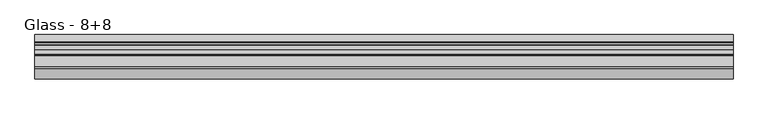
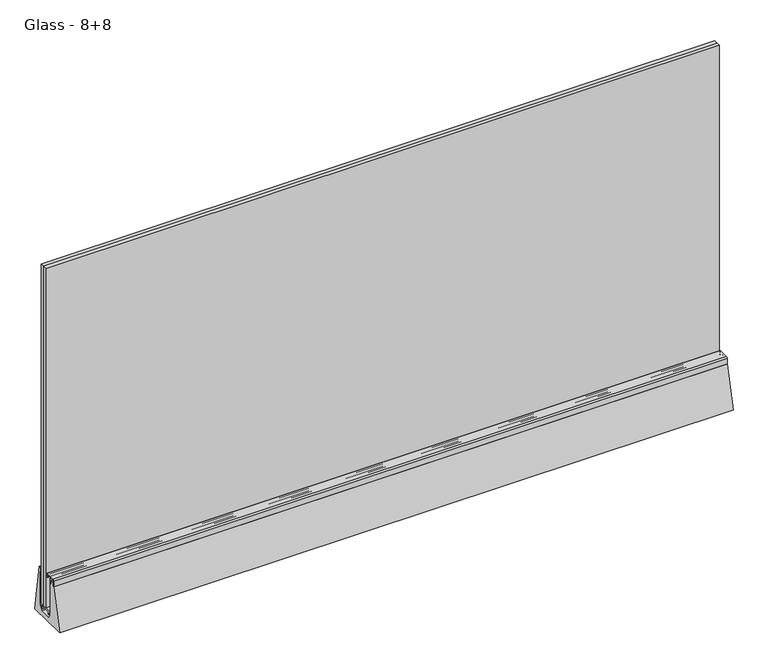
"""IFC4 building model written with IfcOpenShell, lengths in millimetres: proxy geometry, Construction_Slope-Glazing_Faraone_Linea-3-Mini : Glass - 8+8."""

from ifc_helpers import new_model, si_unit, point, frame, frame_2d, origin, place, context, project, spatial, polyline, circle_curve, trimmed, segment, composite_curve, outline, extrude, source, transform, mapped, element, save


def glass_8_8_e84e2e7e(model_context):
    return source(origin(), model_context, "Body", "SweptSolid", [
        extrude(outline(polyline([(750.0, 23.8514845), (750.0, 15.9014845), (-750.0, 15.9014845), (-750.0, 23.8514845), (750.0, 23.8514845)])), frame((0.0, 0.0, 26.5097848), z_axis=(0.0, 0.0, 1.0), x_axis=(1.0, 0.0, 0.0)), (0.0, 0.0, 1.0), 800.0),
        extrude(outline(polyline([(750.0, 14.3014845), (750.0, 6.3514845), (-750.0, 6.3514845), (-750.0, 14.3014845), (750.0, 14.3014845)])), frame((0.0, 0.0, 26.5097848), z_axis=(0.0, 0.0, 1.0), x_axis=(1.0, 0.0, 0.0)), (0.0, 0.0, 1.0), 800.0),
        extrude(outline(polyline([(21.0027951, 21.0097848), (22.0027951, 21.0097848), (21.0027951, 17.5097848), (18.5027951, 17.5097848), (18.5027951, 23.5097848), (-3.4544609, 23.5097848), (-3.4544609, 17.5097848), (-5.9544609, 17.5097848), (-6.9542334, 21.0097848), (-5.9544609, 21.0097848), (-5.9544609, 23.5100571), (-8.9999952, 23.5100571), (-8.9999952, 26.5097848), (23.8514845, 26.5097848), (23.8514845, 98.7598945), (26.4955126, 98.7598945), (26.4955126, 23.5097848), (21.0027951, 23.5097848), (21.0027951, 21.0097848)])), frame((-750.0, 0.0, 0.0), z_axis=(1.0, 0.0, 0.0), x_axis=(0.0, 1.0, 0.0)), (0.0, 0.0, 1.0), 1500.0),
        extrude(outline(composite_curve([segment(trimmed(circle_curve(frame_2d((2.3741707, 109.8933639)), 0.5), [point((2.3741707, 110.3933639))], [point((2.8741707, 109.8933639))], False, "CARTESIAN"), True, "CONTINUOUS"), segment(polyline([(2.8741707, 109.8933639), (2.8741707, 107.7847909), (2.080513, 107.7847909), (2.080513, 109.0323883), (1.1824202, 109.0323883)]), True, "CONTINUOUS"), segment(trimmed(circle_curve(frame_2d((1.1824202, 108.5241255)), 0.5082627), [point((1.1824202, 109.0323883))], [point((0.6741575, 108.5241255))], True, "CARTESIAN"), True, "CONTINUOUS"), segment(polyline([(0.6741575, 108.5241255), (0.6741575, 104.040651)]), True, "CONTINUOUS"), segment(trimmed(circle_curve(frame_2d((1.1824202, 104.040651)), 0.5082627), [point((0.6741575, 104.040651))], [point((1.1824202, 103.5323883))], True, "CARTESIAN"), True, "CONTINUOUS"), segment(polyline([(1.1824202, 103.5323883), (2.080513, 103.5323883), (2.080513, 104.7799856), (2.8741707, 104.7799856), (2.8741707, 102.8323883)]), True, "CONTINUOUS"), segment(trimmed(circle_curve(frame_2d((2.3741707, 102.8323883)), 0.5), [point((2.8741707, 102.8323883))], [point((2.3741707, 102.3323883))], False, "CARTESIAN"), True, "CONTINUOUS"), segment(polyline([(2.3741707, 102.3323883), (-0.0258423, 102.3323883)]), True, "CONTINUOUS"), segment(trimmed(circle_curve(frame_2d((-0.0258423, 102.8323885)), 0.5000003), [point((-0.0258423, 102.3323883))], [point((-0.5258425, 102.8323885))], False, "CARTESIAN"), True, "CONTINUOUS"), segment(polyline([(-0.5258425, 102.8323885), (-0.5258425, 108.3933644)]), True, "CONTINUOUS"), segment(trimmed(circle_curve(frame_2d((-1.0258425, 108.3933644)), 0.5), [point((-0.5258425, 108.3933644))], [point((-1.0258425, 108.8933644))], True, "CARTESIAN"), True, "CONTINUOUS"), segment(polyline([(-1.0258425, 108.8933644), (-11.5017337, 108.8933644), (-11.5017337, 95.1380316), (-13.5888351, 95.1380316), (-13.5888351, 100.1818111), (-12.7017337, 100.1818111), (-12.7017337, 108.0933644)]), True, "CONTINUOUS"), segment(trimmed(circle_curve(frame_2d((-12.7017337, 108.4933644)), 0.4), [point((-12.7017337, 108.0933644))], [point((-12.7017337, 108.8933644))], True, "CARTESIAN"), True, "CONTINUOUS"), segment(polyline([(-12.7017337, 108.8933644), (-22.0267873, 108.8933644)]), True, "CONTINUOUS"), segment(trimmed(circle_curve(frame_2d((-22.0267873, 107.3933642)), 1.5000003), [point((-22.0267873, 108.8933644))], [point((-23.5267875, 107.3933642))], True, "CARTESIAN"), True, "CONTINUOUS"), segment(polyline([(-23.5267875, 107.3933642), (-23.5267875, 100.1818111), (-22.6462885, 100.1818111), (-22.6462885, 95.1374302), (-24.7267875, 95.1382255), (-24.7267875, 107.3933639)]), True, "CONTINUOUS"), segment(trimmed(circle_curve(frame_2d((-21.7267875, 107.3933639)), 3.0), [point((-24.7267875, 107.3933639))], [point((-21.7267875, 110.3933639))], False, "CARTESIAN"), True, "CONTINUOUS"), segment(polyline([(-21.7267875, 110.3933639), (2.3741707, 110.3933639)]), True, "CONTINUOUS")], self_intersect=False)), frame((-750.0, 0.0, 0.0), z_axis=(1.0, 0.0, 0.0), x_axis=(0.0, 1.0, 0.0)), (0.0, 0.0, 1.0), 1500.0),
        extrude(outline(composite_curve([segment(polyline([(-47.4987038, 0.0), (-24.7300487, 95.1378278), (-22.4744479, 95.1378278), (-22.4744479, 103.0050058), (-13.7606757, 103.0050058), (-13.7606757, 95.1380316), (-11.4999492, 95.1380316), (-11.4999492, 23.5100853), (-6.5000411, 23.5100853), (-6.5000411, 21.5106384), (-11.5002842, 21.5106384), (-6.3392177, 10.5100582), (21.4008273, 10.5098183), (26.8963028, 21.5099451), (21.4999589, 21.5099451), (21.4999589, 23.5097848), (26.4996909, 23.5097848), (26.4947523, 109.9810078), (30.5938434, 109.9810078)]), True, "CONTINUOUS"), segment(trimmed(circle_curve(frame_2d((30.5938434, 109.0417285)), 0.9392792), [point((30.5938434, 109.9810078))], [point((31.5233799, 109.1766636))], False, "CARTESIAN"), True, "CONTINUOUS"), segment(polyline([(31.5233799, 109.1766636), (47.3718822, 0.0), (-47.4987038, 0.0)]), True, "CONTINUOUS")], self_intersect=False)), frame((-750.0, 0.0, 0.0), z_axis=(1.0, 0.0, 0.0), x_axis=(0.0, 1.0, 0.0)), (0.0, 0.0, 1.0), 1500.0),
    ])


if __name__ == "__main__":
    model = new_model("IFC4")
    model_context = context("Model", 3, world=origin())
    ifc_project = project(units=[si_unit("LENGTHUNIT", "METRE", prefix="MILLI")], contexts=[model_context])
    site = spatial("IfcSite", under=ifc_project)
    building = spatial("IfcBuilding", under=site)
    placement = place(None, origin())
    glass_8_8_shape = glass_8_8_e84e2e7e(model_context)
    element("IfcBuildingElementProxy", 1, Name="Construction_Slope-Glazing_Faraone_Linea-3-Mini : Glass - 8+8", ObjectType="Construction_Slope-Glazing_Faraone_Linea-3-Mini : Glass - 8+8", at=placement, inside=building, context=model_context, shape_type="MappedRepresentation", body=[
        mapped(glass_8_8_shape, transform((0.0, 0.0, 0.0), x_axis=(1.0, 0.0, 0.0), y_axis=(0.0, 1.0, 0.0), z_axis=(0.0, 0.0, 1.0))),
    ])
    save(model, "model.ifc")
